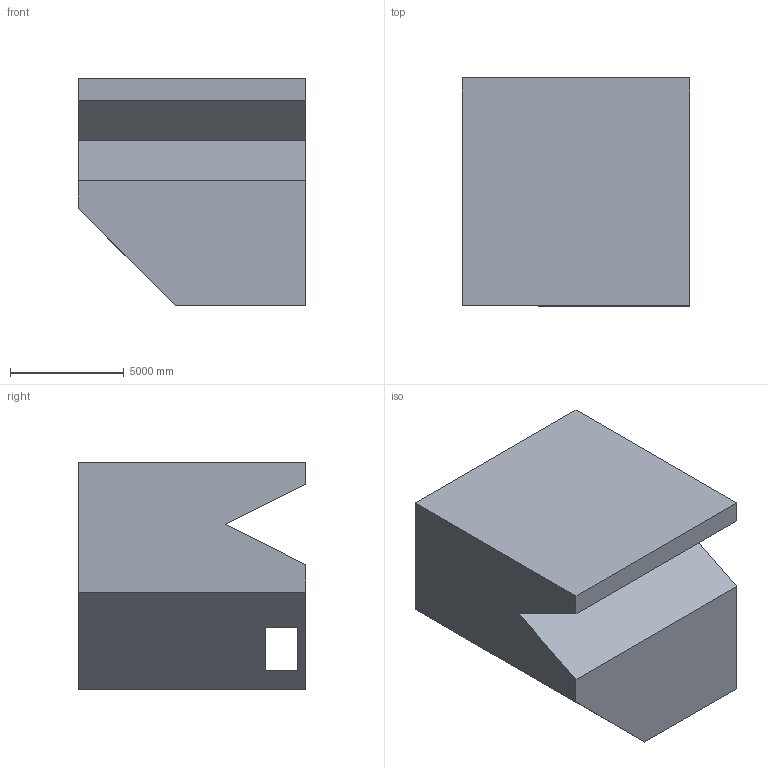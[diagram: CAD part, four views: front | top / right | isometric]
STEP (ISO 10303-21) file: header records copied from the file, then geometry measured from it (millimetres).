
FILE_DESCRIPTION (( 'STEP AP203' ), '1' );
FILE_NAME ('131.STEP', '2022-09-05T15:39:09', ( 'user' ), ( '' ), 'SwSTEP 2.0', 'SolidWorks 2021', '' );
FILE_SCHEMA (( 'CONFIG_CONTROL_DESIGN' ));
Length unit declared in the file: centimetre
Products named in the file (1): 131
Bounding box: 10000 x 10000 x 10000 mm (x, y, z)
Volume: 821606488809.3 mm3; surface area: 637537625 mm2
Topology: 1 solids, 1 shells, 21 faces, 54 edges, 36 vertices
Faces by surface type: plane 21
Entity records: 709 total; most frequent: CARTESIAN_POINT 112, ORIENTED_EDGE 108, DIRECTION 98, EDGE_CURVE 54, VECTOR 54, LINE 54, VERTEX_POINT 36, EDGE_LOOP 24
